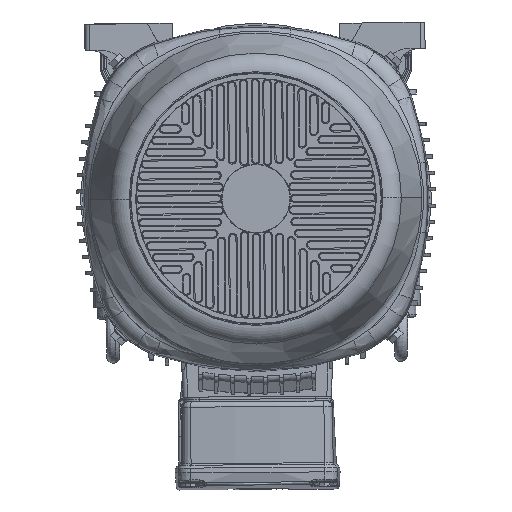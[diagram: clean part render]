
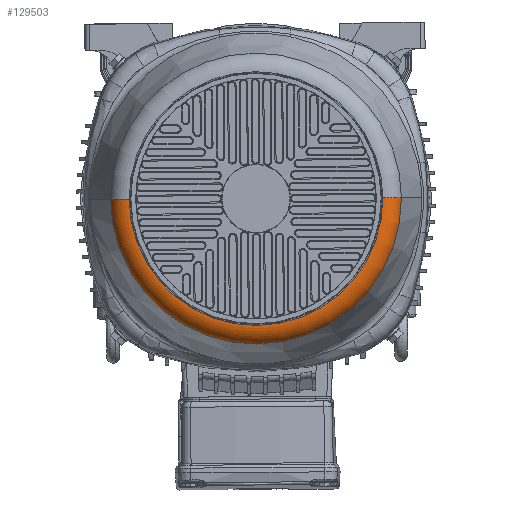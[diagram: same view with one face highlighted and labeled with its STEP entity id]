
A CAD part, front view. The second image highlights one B-rep face of the part: STEP entity #129503.
In plain terms, the highlighted toroidal (fillet/blend) face has major radius 162.695 mm and minor radius 25 mm.
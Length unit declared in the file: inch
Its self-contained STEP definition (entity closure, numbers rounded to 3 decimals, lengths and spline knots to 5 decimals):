
#15186 = VERTEX_POINT ( 'NONE', #76727 ) ;
#16780 = CIRCLE ( 'NONE', #98100, 0.98425 ) ;
#20619 = CIRCLE ( 'NONE', #122808, 7.34139 ) ;
#22408 = CARTESIAN_POINT ( 'NONE',  ( 0., 0., -14.80315 ) ) ;
#25465 = EDGE_LOOP ( 'NONE', ( #65598, #86339, #132776, #41552 ) ) ;
#30257 = CARTESIAN_POINT ( 'NONE',  ( 6.40531, 0., -15.7874 ) ) ;
#35636 = DIRECTION ( 'NONE',  ( 0., 0., 1. ) ) ;
#36724 = AXIS2_PLACEMENT_3D ( 'NONE', #22408, #79865, #133718 ) ;
#41552 = ORIENTED_EDGE ( 'NONE', *, *, #120225, .F. ) ;
#45170 = DIRECTION ( 'NONE',  ( 0., 1., 0. ) ) ;
#47995 = CARTESIAN_POINT ( 'NONE',  ( 0., 0., -15.7874 ) ) ;
#48342 = EDGE_CURVE ( 'NONE', #131409, #137938, #16780, .T. ) ;
#53325 = DIRECTION ( 'NONE',  ( 0., 0., 1. ) ) ;
#59156 = CARTESIAN_POINT ( 'NONE',  ( 6.40531, 0., -14.80315 ) ) ;
#64051 = EDGE_CURVE ( 'NONE', #15186, #137938, #20619, .T. ) ;
#65598 = ORIENTED_EDGE ( 'NONE', *, *, #66736, .T. ) ;
#66736 = EDGE_CURVE ( 'NONE', #80726, #131409, #74810, .T. ) ;
#66799 = FACE_OUTER_BOUND ( 'NONE', #25465, .T. ) ;
#74810 = CIRCLE ( 'NONE', #135214, 6.40531 ) ;
#76727 = CARTESIAN_POINT ( 'NONE',  ( 7.34139, 0., -15.1073 ) ) ;
#79865 = DIRECTION ( 'NONE',  ( 0., 0., 1. ) ) ;
#80726 = VERTEX_POINT ( 'NONE', #30257 ) ;
#82159 = DIRECTION ( 'NONE',  ( 1., 0., 0. ) ) ;
#82377 = DIRECTION ( 'NONE',  ( 0., 0., -1. ) ) ;
#86339 = ORIENTED_EDGE ( 'NONE', *, *, #48342, .T. ) ;
#88220 = CARTESIAN_POINT ( 'NONE',  ( 0., 0., -15.1073 ) ) ;
#91342 = CARTESIAN_POINT ( 'NONE',  ( -7.34139, 0., -15.1073 ) ) ;
#97470 = CIRCLE ( 'NONE', #120584, 0.98425 ) ;
#98100 = AXIS2_PLACEMENT_3D ( 'NONE', #121586, #45170, #122299 ) ;
#101750 = TOROIDAL_SURFACE ( 'NONE', #36724, 6.40531, 0.98425 ) ;
#103522 = DIRECTION ( 'NONE',  ( 0., -1., 0. ) ) ;
#120225 = EDGE_CURVE ( 'NONE', #80726, #15186, #97470, .T. ) ;
#120584 = AXIS2_PLACEMENT_3D ( 'NONE', #59156, #103522, #82377 ) ;
#121586 = CARTESIAN_POINT ( 'NONE',  ( -6.40531, 0., -14.80315 ) ) ;
#121654 = DIRECTION ( 'NONE',  ( 1., 0., 0. ) ) ;
#122299 = DIRECTION ( 'NONE',  ( -1., 0., 0. ) ) ;
#122808 = AXIS2_PLACEMENT_3D ( 'NONE', #88220, #53325, #121654 ) ;
#125042 = CARTESIAN_POINT ( 'NONE',  ( -6.40531, 0., -15.7874 ) ) ;
#129503 = ADVANCED_FACE ( 'NONE', ( #66799 ), #101750, .T. ) ;
#131409 = VERTEX_POINT ( 'NONE', #125042 ) ;
#132776 = ORIENTED_EDGE ( 'NONE', *, *, #64051, .F. ) ;
#133718 = DIRECTION ( 'NONE',  ( 1., 0., 0. ) ) ;
#135214 = AXIS2_PLACEMENT_3D ( 'NONE', #47995, #35636, #82159 ) ;
#137938 = VERTEX_POINT ( 'NONE', #91342 ) ;
